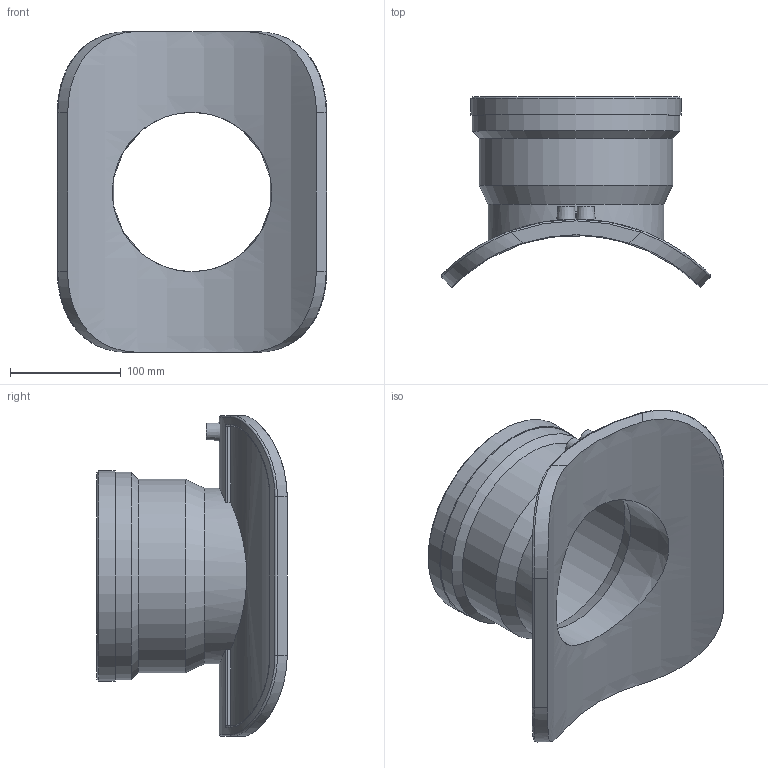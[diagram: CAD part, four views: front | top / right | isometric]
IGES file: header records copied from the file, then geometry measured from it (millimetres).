
Global section: file name: 4758V4315160.ipt; native system: Autodesk Inventor 2015; preprocessor: unknown; author: Кирилл,,11,0; organization: 20170830.202409; date: 20171106.093513; units: millimetre
Bounding box: 243.69 x 172.16 x 290 mm (x, y, z)
Volume: 1234025.9 mm3; surface area: 270243.2 mm2
Topology: 1 solids, 1 shells, 83 faces, 199 edges, 127 vertices
Faces by surface type: cylinder 24, revolution 24, plane 21, bspline 8, cone 6
Full cylindrical faces by diameter (mm): 4 x2, 159 x1, 160 x1, 175 x1, 188.1 x1, 190 x1
